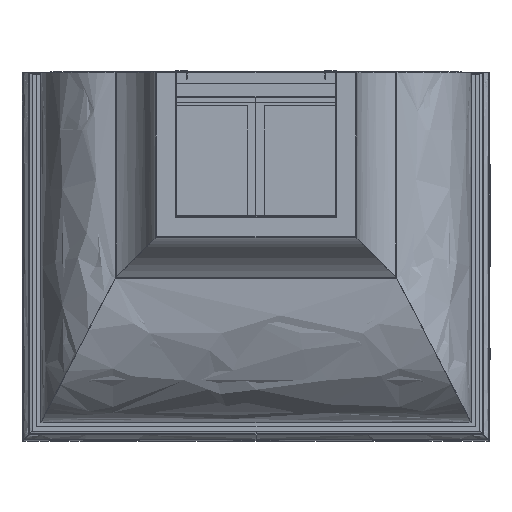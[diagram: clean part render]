
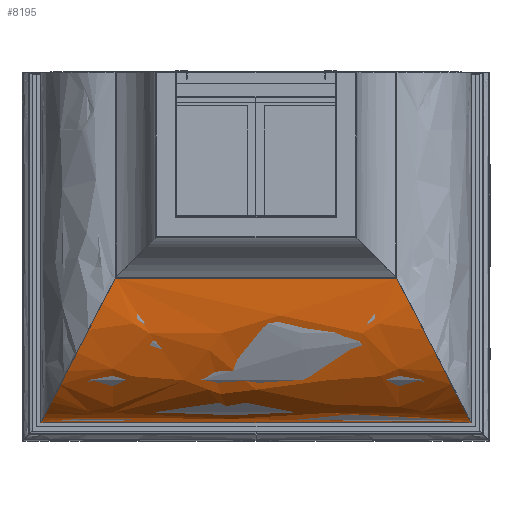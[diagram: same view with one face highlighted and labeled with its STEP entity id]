
A CAD part, top view. The second image highlights one B-rep face of the part: STEP entity #8195.
In plain terms, the highlighted face is a extrusion surface.
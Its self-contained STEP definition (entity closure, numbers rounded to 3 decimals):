
#8036=CARTESIAN_POINT('Vertex',(723.925,153.154,1681.5)) ;
#8039=CARTESIAN_POINT('Line Origine',(450.002,153.154,1681.5)) ;
#8043=CARTESIAN_POINT('Vertex',(176.079,153.154,1681.5)) ;
#8077=CARTESIAN_POINT('Control Point',(1305.002,153.154,1681.5)) ;
#8078=CARTESIAN_POINT('Control Point',(1305.002,153.094,1682.539)) ;
#8079=CARTESIAN_POINT('Control Point',(1305.002,153.048,1683.564)) ;
#8080=CARTESIAN_POINT('Control Point',(1305.002,153.016,1684.58)) ;
#8081=CARTESIAN_POINT('Control Point',(1305.002,152.695,1704.469)) ;
#8082=CARTESIAN_POINT('Control Point',(1305.002,158.693,1724.358)) ;
#8083=CARTESIAN_POINT('Control Point',(1305.002,170.084,1742.262)) ;
#8084=CARTESIAN_POINT('Control Point',(1305.002,202.98,1774.136)) ;
#8085=CARTESIAN_POINT('Control Point',(1305.002,251.908,1795.528)) ;
#8086=CARTESIAN_POINT('Control Point',(1305.002,279.285,1802.91)) ;
#8087=CARTESIAN_POINT('Control Point',(1305.002,308.143,1806.6)) ;
#8088=CARTESIAN_POINT('Control Point',(1305.002,337.,1806.6)) ;
#8093=CARTESIAN_POINT('Control Point',(723.925,153.154,1681.5)) ;
#8094=CARTESIAN_POINT('Control Point',(723.961,153.082,1682.758)) ;
#8095=CARTESIAN_POINT('Control Point',(723.987,153.029,1684.001)) ;
#8096=CARTESIAN_POINT('Control Point',(724.004,152.997,1685.233)) ;
#8097=CARTESIAN_POINT('Control Point',(724.012,152.981,1688.091)) ;
#8098=CARTESIAN_POINT('Control Point',(723.953,153.096,1690.954)) ;
#8099=CARTESIAN_POINT('Control Point',(723.897,153.204,1692.584)) ;
#8100=CARTESIAN_POINT('Control Point',(723.792,153.408,1694.801)) ;
#8101=CARTESIAN_POINT('Control Point',(723.646,153.69,1697.006)) ;
#8102=CARTESIAN_POINT('Control Point',(723.604,153.771,1697.599)) ;
#8103=CARTESIAN_POINT('Control Point',(722.953,155.033,1706.186)) ;
#8104=CARTESIAN_POINT('Control Point',(721.697,157.465,1714.629)) ;
#8105=CARTESIAN_POINT('Control Point',(720.029,160.696,1722.232)) ;
#8106=CARTESIAN_POINT('Control Point',(716.872,166.811,1733.132)) ;
#8107=CARTESIAN_POINT('Control Point',(712.876,174.549,1743.136)) ;
#8108=CARTESIAN_POINT('Control Point',(711.45,177.312,1746.385)) ;
#8109=CARTESIAN_POINT('Control Point',(705.746,188.359,1758.281)) ;
#8110=CARTESIAN_POINT('Control Point',(698.999,201.427,1768.601)) ;
#8111=CARTESIAN_POINT('Control Point',(693.611,211.862,1775.31)) ;
#8112=CARTESIAN_POINT('Control Point',(686.955,224.755,1782.156)) ;
#8113=CARTESIAN_POINT('Control Point',(679.984,238.256,1787.873)) ;
#8114=CARTESIAN_POINT('Control Point',(678.954,240.252,1788.689)) ;
#8115=CARTESIAN_POINT('Control Point',(673.874,250.091,1792.57)) ;
#8116=CARTESIAN_POINT('Control Point',(668.653,260.203,1795.882)) ;
#8117=CARTESIAN_POINT('Control Point',(664.428,268.385,1798.166)) ;
#8118=CARTESIAN_POINT('Control Point',(656.11,284.497,1801.943)) ;
#8119=CARTESIAN_POINT('Control Point',(647.632,300.917,1804.45)) ;
#8120=CARTESIAN_POINT('Control Point',(643.487,308.945,1805.374)) ;
#8121=CARTESIAN_POINT('Control Point',(639.208,317.233,1806.024)) ;
#8122=CARTESIAN_POINT('Control Point',(634.921,325.537,1806.367)) ;
#8123=CARTESIAN_POINT('Control Point',(634.783,325.805,1806.378)) ;
#8124=CARTESIAN_POINT('Control Point',(634.335,326.671,1806.412)) ;
#8125=CARTESIAN_POINT('Control Point',(633.895,327.524,1806.442)) ;
#8126=CARTESIAN_POINT('Control Point',(633.581,328.132,1806.461)) ;
#8127=CARTESIAN_POINT('Control Point',(632.881,329.488,1806.502)) ;
#8128=CARTESIAN_POINT('Control Point',(632.259,330.691,1806.531)) ;
#8129=CARTESIAN_POINT('Control Point',(631.933,331.325,1806.544)) ;
#8130=CARTESIAN_POINT('Control Point',(631.222,332.7,1806.57)) ;
#8131=CARTESIAN_POINT('Control Point',(630.427,334.24,1806.588)) ;
#8132=CARTESIAN_POINT('Control Point',(629.973,335.12,1806.596)) ;
#8133=CARTESIAN_POINT('Control Point',(629.488,336.06,1806.6)) ;
#8134=CARTESIAN_POINT('Control Point',(629.002,337.,1806.6)) ;
#8135=CARTESIAN_POINT('Vertex',(629.002,337.,1806.6)) ;
#8138=CARTESIAN_POINT('Line Origine',(1305.002,337.,1806.6)) ;
#8142=CARTESIAN_POINT('Vertex',(271.002,337.,1806.6)) ;
#8146=CARTESIAN_POINT('Control Point',(176.079,153.154,1681.5)) ;
#8147=CARTESIAN_POINT('Control Point',(176.043,153.082,1682.758)) ;
#8148=CARTESIAN_POINT('Control Point',(176.017,153.029,1684.001)) ;
#8149=CARTESIAN_POINT('Control Point',(176.001,152.997,1685.233)) ;
#8150=CARTESIAN_POINT('Control Point',(175.993,152.981,1688.091)) ;
#8151=CARTESIAN_POINT('Control Point',(176.052,153.096,1690.954)) ;
#8152=CARTESIAN_POINT('Control Point',(176.107,153.204,1692.584)) ;
#8153=CARTESIAN_POINT('Control Point',(176.213,153.408,1694.801)) ;
#8154=CARTESIAN_POINT('Control Point',(176.358,153.69,1697.006)) ;
#8155=CARTESIAN_POINT('Control Point',(176.4,153.771,1697.599)) ;
#8156=CARTESIAN_POINT('Control Point',(177.052,155.033,1706.186)) ;
#8157=CARTESIAN_POINT('Control Point',(178.308,157.465,1714.629)) ;
#8158=CARTESIAN_POINT('Control Point',(179.976,160.696,1722.232)) ;
#8159=CARTESIAN_POINT('Control Point',(183.133,166.811,1733.132)) ;
#8160=CARTESIAN_POINT('Control Point',(187.128,174.549,1743.136)) ;
#8161=CARTESIAN_POINT('Control Point',(188.555,177.312,1746.385)) ;
#8162=CARTESIAN_POINT('Control Point',(194.258,188.359,1758.281)) ;
#8163=CARTESIAN_POINT('Control Point',(201.005,201.427,1768.601)) ;
#8164=CARTESIAN_POINT('Control Point',(206.393,211.862,1775.31)) ;
#8165=CARTESIAN_POINT('Control Point',(213.05,224.755,1782.156)) ;
#8166=CARTESIAN_POINT('Control Point',(220.02,238.256,1787.873)) ;
#8167=CARTESIAN_POINT('Control Point',(221.051,240.252,1788.689)) ;
#8168=CARTESIAN_POINT('Control Point',(226.131,250.091,1792.57)) ;
#8169=CARTESIAN_POINT('Control Point',(231.352,260.203,1795.882)) ;
#8170=CARTESIAN_POINT('Control Point',(235.576,268.385,1798.166)) ;
#8171=CARTESIAN_POINT('Control Point',(243.895,284.497,1801.943)) ;
#8172=CARTESIAN_POINT('Control Point',(252.372,300.917,1804.45)) ;
#8173=CARTESIAN_POINT('Control Point',(256.517,308.945,1805.374)) ;
#8174=CARTESIAN_POINT('Control Point',(260.796,317.233,1806.024)) ;
#8175=CARTESIAN_POINT('Control Point',(265.084,325.537,1806.367)) ;
#8176=CARTESIAN_POINT('Control Point',(265.222,325.805,1806.378)) ;
#8177=CARTESIAN_POINT('Control Point',(265.669,326.671,1806.412)) ;
#8178=CARTESIAN_POINT('Control Point',(266.11,327.524,1806.442)) ;
#8179=CARTESIAN_POINT('Control Point',(266.424,328.132,1806.461)) ;
#8180=CARTESIAN_POINT('Control Point',(267.124,329.488,1806.502)) ;
#8181=CARTESIAN_POINT('Control Point',(267.745,330.691,1806.531)) ;
#8182=CARTESIAN_POINT('Control Point',(268.072,331.325,1806.544)) ;
#8183=CARTESIAN_POINT('Control Point',(268.782,332.7,1806.57)) ;
#8184=CARTESIAN_POINT('Control Point',(269.577,334.24,1806.588)) ;
#8185=CARTESIAN_POINT('Control Point',(270.032,335.12,1806.596)) ;
#8186=CARTESIAN_POINT('Control Point',(270.517,336.06,1806.6)) ;
#8187=CARTESIAN_POINT('Control Point',(271.002,337.,1806.6)) ;
#8040=DIRECTION('Vector Direction',(-1.,0.,0.)) ;
#8089=DIRECTION('Vector Direction',(-1.,0.,0.)) ;
#8139=DIRECTION('Vector Direction',(-1.,0.,0.)) ;
#8190=ORIENTED_EDGE('',*,*,#8045,.T.) ;
#8191=ORIENTED_EDGE('',*,*,#8137,.T.) ;
#8192=ORIENTED_EDGE('',*,*,#8144,.F.) ;
#8193=ORIENTED_EDGE('',*,*,#8188,.F.) ;
#8041=VECTOR('Line Direction',#8040,1.) ;
#8090=VECTOR('Extrusion Surface Vector',#8089,1.) ;
#8140=VECTOR('Line Direction',#8139,1.) ;
#8195=ADVANCED_FACE('Body.83',(#8194),#8091,.T.) ;
#8076=B_SPLINE_CURVE_WITH_KNOTS('',5,(#8077,#8078,#8079,#8080,#8081,#8082,#8083,#8084,#8085,#8086,#8087,#8088),.UNSPECIFIED.,.F.,.U.,(6,3,3,6),(683.567,690.121,812.623,934.742),.UNSPECIFIED.) ;
#8092=B_SPLINE_CURVE_WITH_KNOTS('',5,(#8093,#8094,#8095,#8096,#8097,#8098,#8099,#8100,#8101,#8102,#8103,#8104,#8105,#8106,#8107,#8108,#8109,#8110,#8111,#8112,#8113,#8114,#8115,#8116,#8117,#8118,#8119,#8120,#8121,#8122,#8123,#8124,#8125,#8126,#8127,#8128,#8129,#8130,#8131,#8132,#8133,#8134),.UNSPECIFIED.,.F.,.U.,(6,3,3,3,3,3,3,3,3,3,3,3,3,6),(27.89,40.503,57.135,63.231,145.845,187.469,303.635,323.642,401.666,475.338,477.387,483.229,491.136,499.697),.UNSPECIFIED.) ;
#8145=B_SPLINE_CURVE_WITH_KNOTS('',5,(#8146,#8147,#8148,#8149,#8150,#8151,#8152,#8153,#8154,#8155,#8156,#8157,#8158,#8159,#8160,#8161,#8162,#8163,#8164,#8165,#8166,#8167,#8168,#8169,#8170,#8171,#8172,#8173,#8174,#8175,#8176,#8177,#8178,#8179,#8180,#8181,#8182,#8183,#8184,#8185,#8186,#8187),.UNSPECIFIED.,.F.,.U.,(6,3,3,3,3,3,3,3,3,3,3,3,3,6),(27.89,40.503,57.135,63.231,145.845,187.469,303.635,323.642,401.666,475.338,477.387,483.229,491.136,499.697),.UNSPECIFIED.) ;
#8045=EDGE_CURVE('',#8044,#8037,#8042,.F.) ;
#8137=EDGE_CURVE('',#8037,#8136,#8092,.T.) ;
#8144=EDGE_CURVE('',#8143,#8136,#8141,.F.) ;
#8188=EDGE_CURVE('',#8044,#8143,#8145,.T.) ;
#8189=EDGE_LOOP('',(#8190,#8191,#8192,#8193)) ;
#8194=FACE_OUTER_BOUND('',#8189,.T.) ;
#8042=LINE('Line',#8039,#8041) ;
#8141=LINE('Line',#8138,#8140) ;
#8091=SURFACE_OF_LINEAR_EXTRUSION('generated tabulated cylinder',#8076,#8090) ;
#8037=VERTEX_POINT('',#8036) ;
#8044=VERTEX_POINT('',#8043) ;
#8136=VERTEX_POINT('',#8135) ;
#8143=VERTEX_POINT('',#8142) ;
